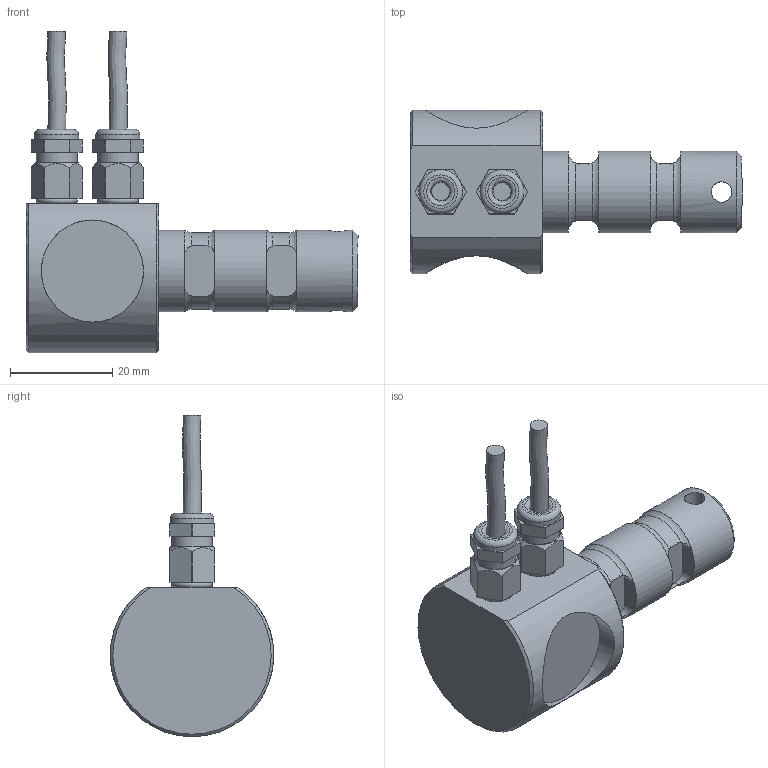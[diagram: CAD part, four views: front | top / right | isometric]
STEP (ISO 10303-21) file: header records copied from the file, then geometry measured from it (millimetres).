
FILE_DESCRIPTION(/* description */ ('Alibre Inc.'),/* implementation_level */ '2;1');
FILE_NAME(/* name */ 'export0',/* time_stamp */ '2013-11-28T16:47:44+01:00',/* author */ (''),/* organization */ (''),/* preprocessor_version */ 'ST-DEVELOPER v14',/* originating_system */ 'Alibre',/* authorisation */ '');
FILE_SCHEMA (('CONFIG_CONTROL_DESIGN'));
Length unit declared in the file: centimetre
Products named in the file (6): ID_1; ID_2; ID_3
Bounding box: 65 x 32 x 62.96 mm (x, y, z)
Volume: 26352.8 mm3; surface area: 9863.8 mm2
Topology: 7 solids, 8 shells, 155 faces, 371 edges, 239 vertices
Faces by surface type: plane 68, cylinder 62, torus 14, cone 9, bspline 2
Full cylindrical faces by diameter (mm): 3.5 x2, 4 x1, 4.917 x2, 6 x2, 8 x2, 8.6 x2, 16 x3, 20 x2
Entity records: 5592 total; most frequent: CARTESIAN_POINT 2742, ORIENTED_EDGE 482, DIRECTION 383, EDGE_CURVE 241, VERTEX_POINT 165, AXIS2_PLACEMENT_3D 165, FACE_BOUND 142, EDGE_LOOP 141
